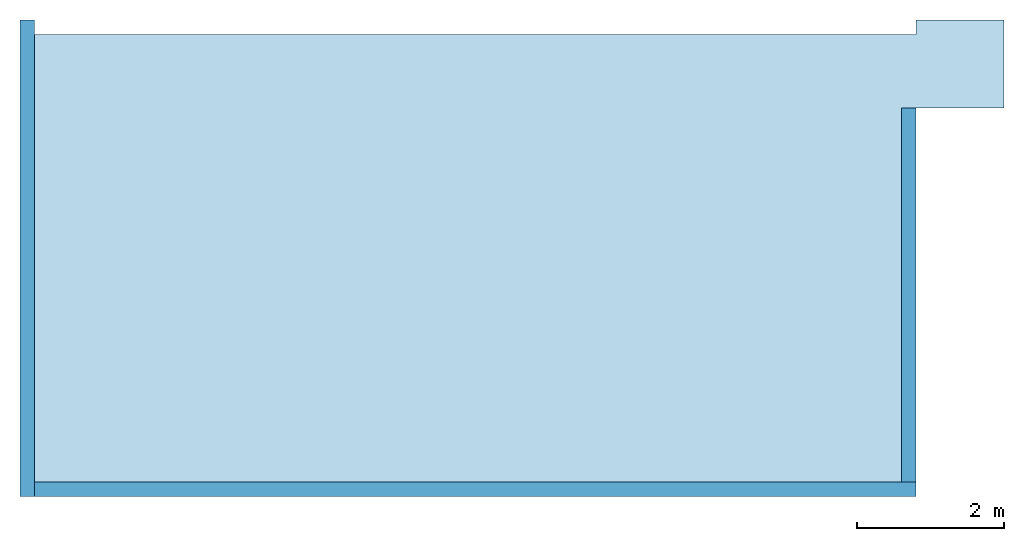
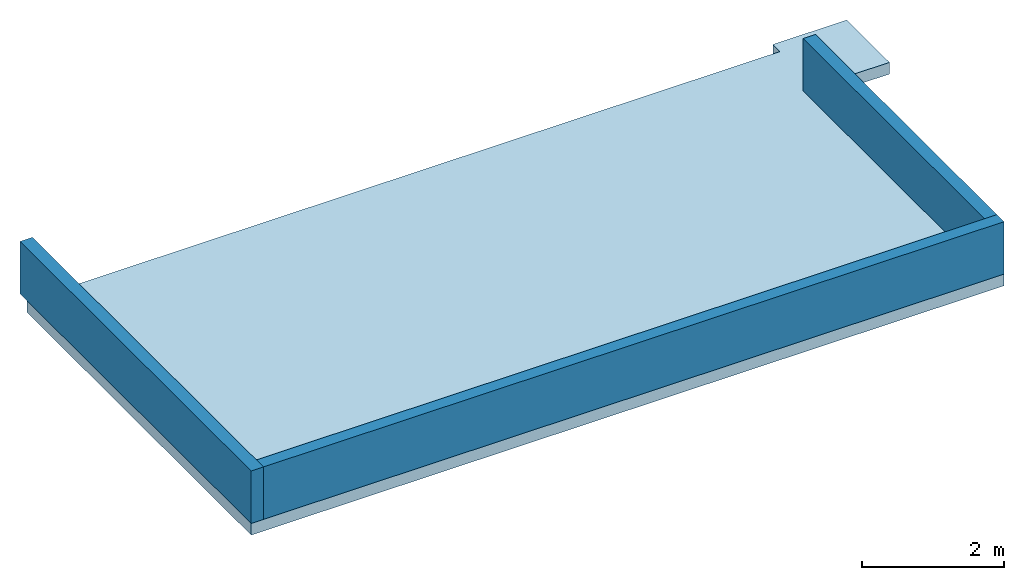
# One storey: 3 walls, 1 slab.
"""IFC2X3 building model written with IfcOpenShell, lengths in metres."""

from ifc_helpers import new_model, entity, si_unit, converted_unit, derived_unit, direction, frame, frame_2d, origin, place, context, subcontext, project, spatial, polyline, rectangle, outline, extrude, material, layer, layer_set, layer_usage, type_object, element, save


model = new_model("IFC2X3")

# Units and contexts
model_context = context("Model", 3, precision=1e-05, world=origin(), true_north=direction((6.12303176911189e-17, 1.0)))
context_of_model = context(None, 3, precision=1e-05, world=origin(), true_north=direction((6.12303176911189e-17, 1.0)))
body_context = subcontext(model_context, "Body", "Model", "MODEL_VIEW")
ifc_project = project(units=[si_unit("LENGTHUNIT", "METRE"), si_unit("AREAUNIT", "SQUARE_METRE"), si_unit("VOLUMEUNIT", "CUBIC_METRE"), converted_unit("PLANEANGLEUNIT", "DEGREE", entity("IfcRatioMeasure", 0.0174532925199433), si_unit("PLANEANGLEUNIT", "RADIAN"), dimensions=[0, 0, 0, 0, 0, 0, 0]), si_unit("MASSUNIT", "GRAM", prefix="KILO"), si_unit("TIMEUNIT", "SECOND"), si_unit("FREQUENCYUNIT", "HERTZ"), si_unit("THERMODYNAMICTEMPERATUREUNIT", "DEGREE_CELSIUS"), derived_unit("THERMALTRANSMITTANCEUNIT", [(si_unit("MASSUNIT", "GRAM", prefix="KILO"), 1), (si_unit("THERMODYNAMICTEMPERATUREUNIT", "KELVIN"), -1), (si_unit("TIMEUNIT", "SECOND"), -3)]), derived_unit("VOLUMETRICFLOWRATEUNIT", [(si_unit("LENGTHUNIT", "METRE"), 3), (si_unit("TIMEUNIT", "SECOND"), -1)]), si_unit("ELECTRICCURRENTUNIT", "AMPERE"), si_unit("ELECTRICVOLTAGEUNIT", "VOLT"), si_unit("POWERUNIT", "WATT"), si_unit("FORCEUNIT", "NEWTON", prefix="KILO"), si_unit("ILLUMINANCEUNIT", "LUX"), si_unit("LUMINOUSFLUXUNIT", "LUMEN"), si_unit("LUMINOUSINTENSITYUNIT", "CANDELA"), si_unit("PRESSUREUNIT", "PASCAL")], contexts=[model_context, context_of_model])

# Site, building, storey
site_placement = place(None, origin())
site = spatial("IfcSite", under=ifc_project, at=site_placement, Name="Default", CompositionType="ELEMENT")
building_placement = place(site_placement, origin())
building = spatial("IfcBuilding", under=site, at=building_placement, CompositionType="ELEMENT")
storey_placement = place(building_placement, frame((0.0, 0.0, 3.0)))
storey = spatial("IfcBuildingStorey", under=building, at=storey_placement, Name="2 - RdC", CompositionType="ELEMENT", Elevation=3.0)

# Slab
ifc_material_1 = material(Name="Maçonnerie - Béton")
ifc_layer_1 = layer(ifc_material_1, 0.2)
ifc_layer_set_1 = layer_set([ifc_layer_1], Name="Sol:Dalle en béton - 200 mm")
ifc_layer_usage_1 = layer_usage(ifc_layer_set_1, "AXIS3", "POSITIVE", 0.0)
slab_placement = place(storey_placement, origin())
element("IfcSlab", 1, at=slab_placement, inside=storey, material=ifc_layer_usage_1, Name="Sol:Dalle en béton - 200 mm", ObjectType="Sol:Dalle en béton - 200 mm", PredefinedType="FLOOR", context=body_context, shape_type="SweptSolid", body=[
    extrude(outline(polyline([(-9.46500000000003, 1.77499999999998), (-9.46500000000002, -4.52499999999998), (2.75499999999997, -4.52499999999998), (2.75499999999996, 0.775000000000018), (3.95500000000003, 0.775000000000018), (3.95500000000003, 1.97499999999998), (2.75500000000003, 1.97499999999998), (2.75500000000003, 1.77499999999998), (-9.46500000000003, 1.77499999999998)])), frame((4.29128531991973, 3.75331588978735, 0.0)), (0.0, 0.0, -1.0), 0.2),
])

# Walls
ifc_material_2 = material(Name="Mur par défaut")
ifc_layer_2 = layer(ifc_material_2, 0.2)
ifc_layer_set_2 = layer_set([ifc_layer_2], Name="Mur de base:Générique - Ext. 200 mm")
ifc_layer_usage_2 = layer_usage(ifc_layer_set_2, "AXIS2", "NEGATIVE", 0.1)
wall_type = type_object("IfcWallType", Name="Mur de base:Générique - Ext. 200 mm", PredefinedType="STANDARD", material=ifc_layer_set_2)
wall_1_placement = place(storey_placement, frame((-5.07371468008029, 5.72831588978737, 0.0), z_axis=(0.0, 0.0, 1.0), x_axis=(0.0, -1.0, 0.0)))
element("IfcWallStandardCase", 2, at=wall_1_placement, inside=storey, type_object=wall_type, material=ifc_layer_usage_2, Name="Mur de base:Générique - Ext. 200 mm", ObjectType="Mur de base:Générique - Ext. 200 mm", context=body_context, shape_type="SweptSolid", body=[
    extrude(rectangle(XDim=6.49999999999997, YDim=0.2, at=frame_2d((3.24999999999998, 0.0), x_axis=(-1.0, 0.0))), origin(), (0.0, 0.0, 1.0), 0.899999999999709),
])
ifc_layer_usage_3 = layer_usage(ifc_layer_set_2, "AXIS2", "NEGATIVE", 0.1)
wall_2_placement = place(storey_placement, frame((-4.9737146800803, -0.671684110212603, 0.0)))
element("IfcWallStandardCase", 3, at=wall_2_placement, inside=storey, type_object=wall_type, material=ifc_layer_usage_3, Name="Mur de base:Générique - Ext. 200 mm", ObjectType="Mur de base:Générique - Ext. 200 mm", context=body_context, shape_type="SweptSolid", body=[
    extrude(rectangle(XDim=12.02, YDim=0.2, at=frame_2d((6.01, 2.08166817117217e-17), x_axis=(-1.0, 0.0))), origin(), (0.0, 0.0, 1.0), 0.899999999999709),
])
ifc_layer_usage_4 = layer_usage(ifc_layer_set_2, "AXIS2", "NEGATIVE", 0.1)
wall_3_placement = place(storey_placement, frame((6.94628531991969, -0.571684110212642, 0.0), z_axis=(0.0, 0.0, 1.0), x_axis=(0.0, 1.0, 0.0)))
element("IfcWallStandardCase", 4, at=wall_3_placement, inside=storey, type_object=wall_type, material=ifc_layer_usage_4, Name="Mur de base:Générique - Ext. 200 mm", ObjectType="Mur de base:Générique - Ext. 200 mm", context=body_context, shape_type="SweptSolid", body=[
    extrude(rectangle(XDim=5.1, YDim=0.2, at=frame_2d((2.55, -8.32667268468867e-17), x_axis=(-1.0, 0.0))), origin(), (0.0, 0.0, 1.0), 0.899999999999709),
])

save(model, "model.ifc")
